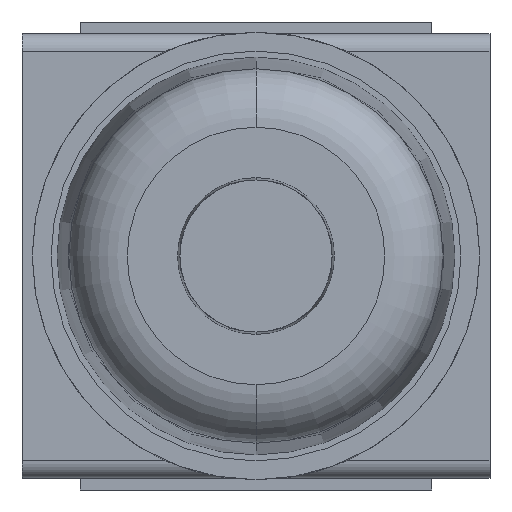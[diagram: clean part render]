
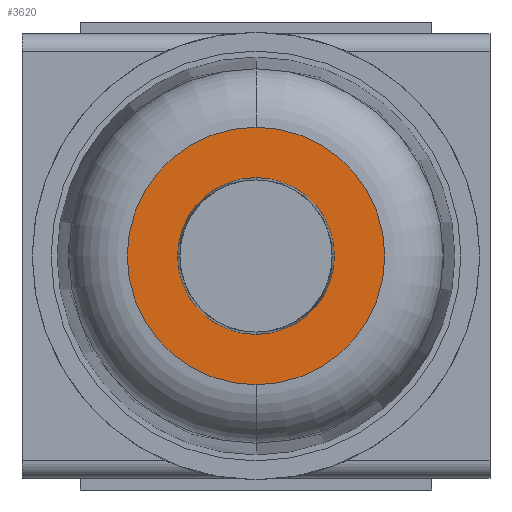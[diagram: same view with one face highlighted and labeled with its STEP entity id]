
A CAD part, front view. The second image highlights one B-rep face of the part: STEP entity #3620.
In plain terms, the highlighted planar face has unit normal (0, -1, 0).
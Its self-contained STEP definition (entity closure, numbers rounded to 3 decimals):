
#3327=CARTESIAN_POINT('',(0.,-74.25,0.));
#3328=DIRECTION('',(0.,1.,0.));
#3329=DIRECTION('',(0.,0.,1.));
#3330=AXIS2_PLACEMENT_3D('',#3327,#3328,#3329);
#3332=CARTESIAN_POINT('',(0.,-74.25,0.));
#3333=DIRECTION('',(0.,1.,0.));
#3334=DIRECTION('',(0.,0.,-1.));
#3335=AXIS2_PLACEMENT_3D('',#3332,#3333,#3334);
#3337=CARTESIAN_POINT('',(0.,-74.25,0.));
#3338=DIRECTION('',(0.,-1.,0.));
#3339=DIRECTION('',(0.,0.,1.));
#3340=AXIS2_PLACEMENT_3D('',#3337,#3338,#3339);
#3342=CARTESIAN_POINT('',(0.,-74.25,0.));
#3343=DIRECTION('',(0.,-1.,0.));
#3344=DIRECTION('',(0.,0.,-1.));
#3345=AXIS2_PLACEMENT_3D('',#3342,#3343,#3344);
#3517=CARTESIAN_POINT('',(0.,-74.25,-6.7));
#3518=VERTEX_POINT('',#3517);
#3519=CARTESIAN_POINT('',(0.,-74.25,6.7));
#3520=VERTEX_POINT('',#3519);
#3521=CARTESIAN_POINT('',(0.,-74.25,11.001));
#3522=CARTESIAN_POINT('',(0.,-74.25,-11.001));
#3523=VERTEX_POINT('',#3521);
#3524=VERTEX_POINT('',#3522);
#3605=CARTESIAN_POINT('',(0.,-74.25,0.));
#3606=DIRECTION('',(0.,1.,0.));
#3607=DIRECTION('',(0.,0.,1.));
#3608=AXIS2_PLACEMENT_3D('',#3605,#3606,#3607);
#3609=PLANE('',#3608);
#3611=ORIENTED_EDGE('',*,*,#3610,.T.);
#3613=ORIENTED_EDGE('',*,*,#3612,.T.);
#3614=EDGE_LOOP('',(#3611,#3613));
#3615=FACE_OUTER_BOUND('',#3614,.F.);
#3616=ORIENTED_EDGE('',*,*,#3598,.T.);
#3617=ORIENTED_EDGE('',*,*,#3587,.T.);
#3618=EDGE_LOOP('',(#3616,#3617));
#3619=FACE_BOUND('',#3618,.F.);
#3620=ADVANCED_FACE('',(#3615,#3619),#3609,.F.);
#3331=CIRCLE('',#3330,11.001);
#3336=CIRCLE('',#3335,11.001);
#3341=CIRCLE('',#3340,6.7);
#3346=CIRCLE('',#3345,6.7);
#3587=EDGE_CURVE('',#3518,#3520,#3346,.T.);
#3598=EDGE_CURVE('',#3520,#3518,#3341,.T.);
#3610=EDGE_CURVE('',#3523,#3524,#3331,.T.);
#3612=EDGE_CURVE('',#3524,#3523,#3336,.T.);
